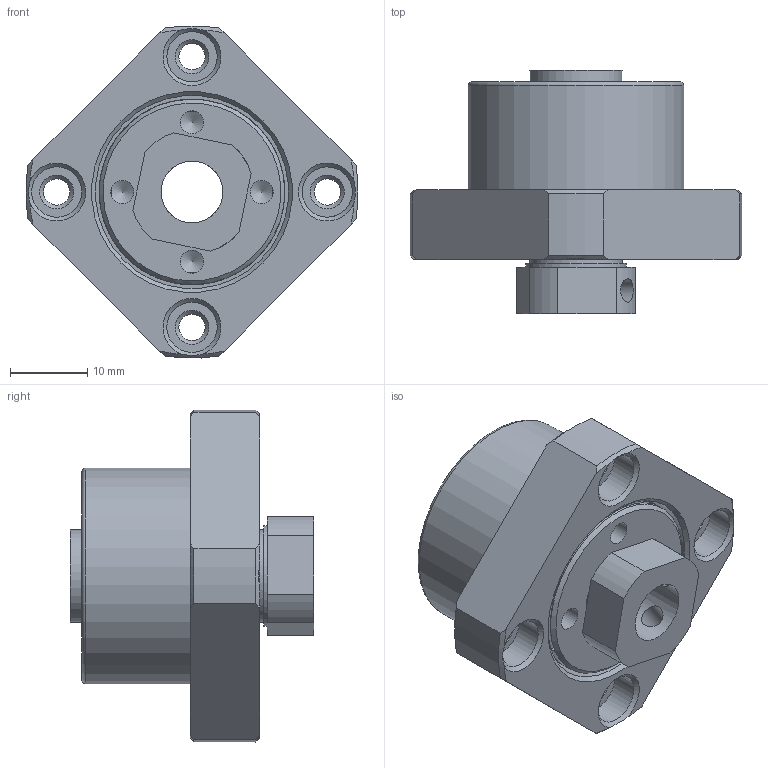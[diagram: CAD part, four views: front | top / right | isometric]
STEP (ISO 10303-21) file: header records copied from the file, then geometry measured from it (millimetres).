
FILE_DESCRIPTION(/* description */ (''),/* implementation_level */ '2;1');
FILE_NAME(/* name */ 'FK8.stp',/* time_stamp */ '2019-12-25T14:55:59+08:00',/* author */ (''),/* organization */ (''),/* preprocessor_version */ 'ST-DEVELOPER v14',/* originating_system */ 'SIEMENS PLM Software NX 8.0',/* authorisation */ '');
FILE_SCHEMA (('AUTOMOTIVE_DESIGN { 1 0 10303 214 3 1 1 1 }'));
Length unit declared in the file: millimetre
Products named in the file (6): M8; GT-12-8-5.5; 708; FK8-A; FK8-LID; FK8
Assembly tree (7 placements, depth 2):
  FK8
    FK8-LID
    FK8-A
    708  x2
    GT-12-8-5.5  x2
    M8
Bounding box: 42.93 x 31.5 x 42.93 mm (x, y, z)
Volume: 17302.4 mm3; surface area: 12671.7 mm2
Topology: 7 solids, 7 shells, 103 faces, 241 edges, 156 vertices
Faces by surface type: cylinder 39, plane 32, cone 29, bspline 2, torus 1
Full cylindrical faces by diameter (mm): 3 x6, 3.4 x4, 6.5 x4, 8 x5, 12 x3, 13 x1, 16 x1, 22 x3, 24.98 x1, 28 x1
Entity records: 3698 total; most frequent: CARTESIAN_POINT 1539, DIRECTION 430, ORIENTED_EDGE 336, AXIS2_PLACEMENT_3D 196, EDGE_CURVE 168, EDGE_LOOP 167, FACE_BOUND 142, VERTEX_POINT 137
